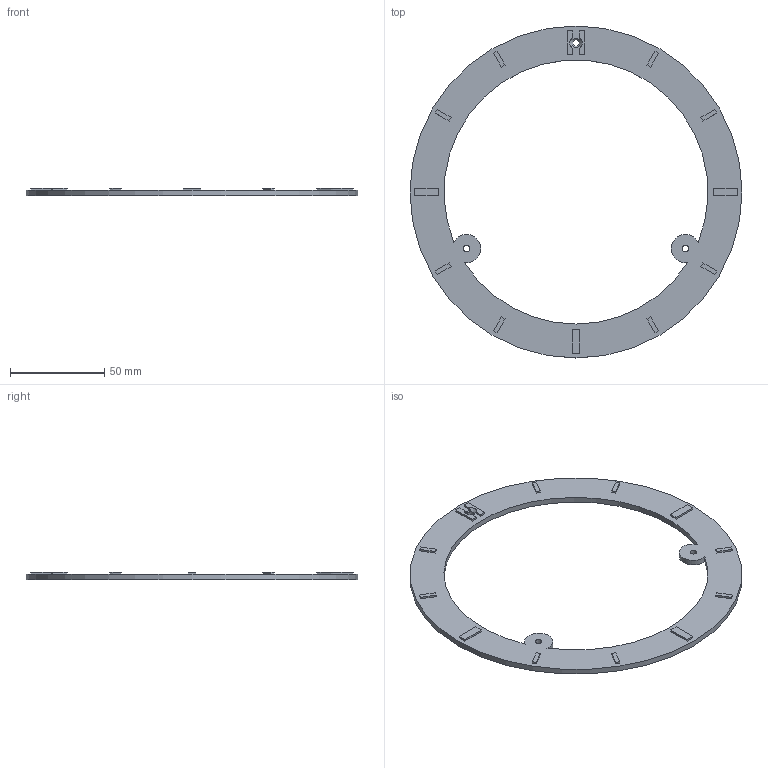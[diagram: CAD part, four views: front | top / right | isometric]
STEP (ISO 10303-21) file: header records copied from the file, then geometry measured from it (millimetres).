
FILE_DESCRIPTION(('Open CASCADE Model'),'2;1');
FILE_NAME('Open CASCADE Shape Model','2026-10-12T22:10:18',('Author'),( 'Open CASCADE'),'Open CASCADE STEP processor 7.9','Open CASCADE 7.9' ,'Unknown');
FILE_SCHEMA(('AUTOMOTIVE_DESIGN { 1 0 10303 214 1 1 1 1 }'));
Length unit declared in the file: millimetre
Products named in the file (1): Open CASCADE STEP translator 7.9 26
Bounding box: 176 x 176 x 4 mm (x, y, z)
Volume: 28007.9 mm3; surface area: 21951.9 mm2
Topology: 1 solids, 1 shells, 78 faces, 194 edges, 129 vertices
Faces by surface type: plane 69, cylinder 8, cone 1
Full cylindrical faces by diameter (mm): 3.5 x3, 176 x1
Entity records: 4874 total; most frequent: CARTESIAN_POINT 844, DIRECTION 756, LINE 529, VECTOR 529, ORIENTED_EDGE 388, PCURVE 388, DEFINITIONAL_REPRESENTATION 388, EDGE_CURVE 194
